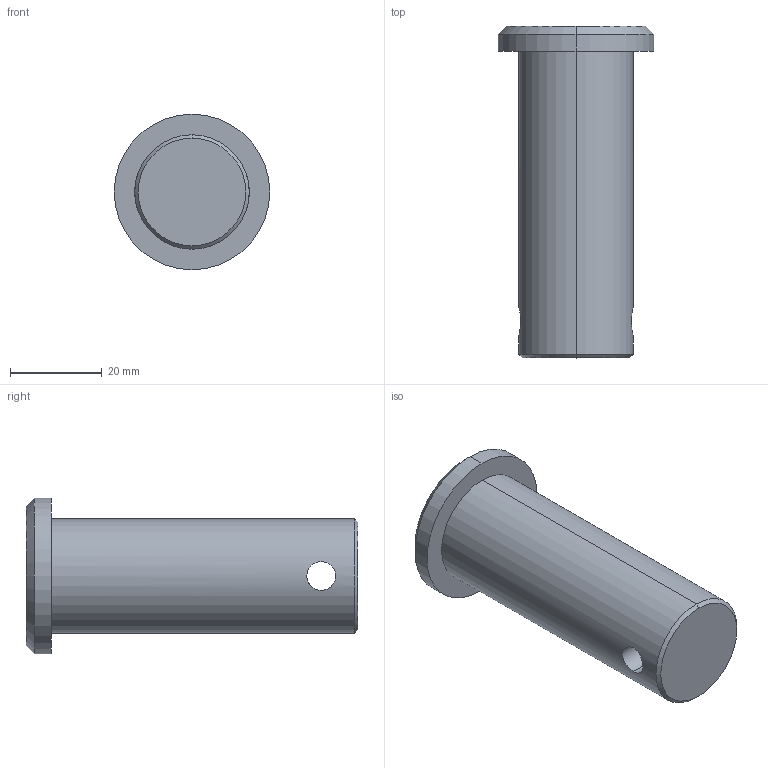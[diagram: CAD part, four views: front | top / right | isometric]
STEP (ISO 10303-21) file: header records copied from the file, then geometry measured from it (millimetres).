
FILE_DESCRIPTION (( 'STEP AP203' ), '1' );
FILE_NAME ('65660.W0125.step', '2023-10-06T09:59:58', ( '' ), ( '' ), 'SwSTEP 2.0', 'SolidWorks 2019', '' );
FILE_SCHEMA (( 'CONFIG_CONTROL_DESIGN' ));
Length unit declared in the file: millimetre
Products named in the file (1): 65660.W0125
Bounding box: 34 x 72.5 x 34 mm (x, y, z)
Volume: 36914.3 mm3; surface area: 7935.2 mm2
Topology: 1 solids, 1 shells, 13 faces, 26 edges, 16 vertices
Faces by surface type: cylinder 6, cone 4, plane 3
Entity records: 537 total; most frequent: CARTESIAN_POINT 180, DIRECTION 62, ORIENTED_EDGE 52, AXIS2_PLACEMENT_3D 26, EDGE_CURVE 26, VERTEX_POINT 16, EDGE_LOOP 16, FACE_OUTER_BOUND 13
